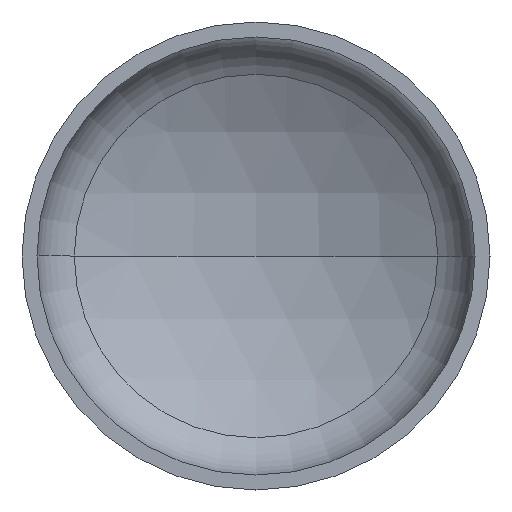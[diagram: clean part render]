
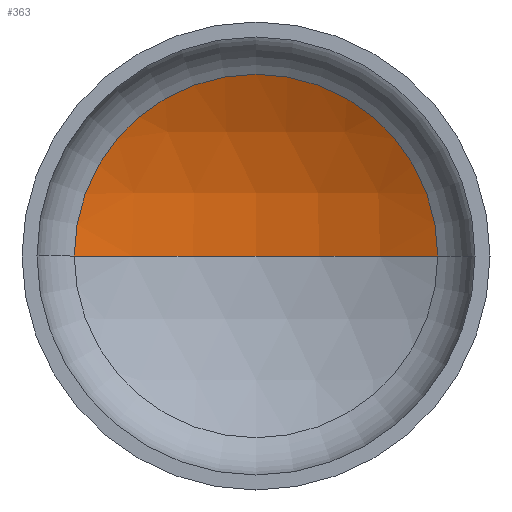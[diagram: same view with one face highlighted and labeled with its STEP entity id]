
A CAD part, front view. The second image highlights one B-rep face of the part: STEP entity #363.
In plain terms, the highlighted spherical face has radius 175 mm.
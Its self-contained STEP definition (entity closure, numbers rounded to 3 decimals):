
#5 = ORIENTED_EDGE ( 'NONE', *, *, #114, .F. ) ;
#8 = VERTEX_POINT ( 'NONE', #265 ) ;
#16 = DIRECTION ( 'NONE',  ( 1., 0., 0. ) ) ;
#25 = EDGE_LOOP ( 'NONE', ( #5, #59, #174 ) ) ;
#31 = CIRCLE ( 'NONE', #42, 175. ) ;
#42 = AXIS2_PLACEMENT_3D ( 'NONE', #135, #105, #16 ) ;
#49 = AXIS2_PLACEMENT_3D ( 'NONE', #217, #213, #214 ) ;
#51 = AXIS2_PLACEMENT_3D ( 'NONE', #302, #299, #225 ) ;
#59 = ORIENTED_EDGE ( 'NONE', *, *, #107, .T. ) ;
#104 = EDGE_CURVE ( 'NONE', #8, #147, #190, .T. ) ;
#105 = DIRECTION ( 'NONE',  ( 0., 0., 1. ) ) ;
#107 = EDGE_CURVE ( 'NONE', #108, #8, #376, .T. ) ;
#108 = VERTEX_POINT ( 'NONE', #305 ) ;
#114 = EDGE_CURVE ( 'NONE', #108, #147, #31, .T. ) ;
#135 = CARTESIAN_POINT ( 'NONE',  ( 0., -98.215, 0. ) ) ;
#147 = VERTEX_POINT ( 'NONE', #209 ) ;
#174 = ORIENTED_EDGE ( 'NONE', *, *, #104, .T. ) ;
#190 = CIRCLE ( 'NONE', #51, 85.08 ) ;
#209 = CARTESIAN_POINT ( 'NONE',  ( -85.08, 54.711, 0. ) ) ;
#213 = DIRECTION ( 'NONE',  ( 0., 0., -1. ) ) ;
#214 = DIRECTION ( 'NONE',  ( -1., 0., 0. ) ) ;
#217 = CARTESIAN_POINT ( 'NONE',  ( 0., -98.215, 0. ) ) ;
#225 = DIRECTION ( 'NONE',  ( 1., 0., 0. ) ) ;
#248 = DIRECTION ( 'NONE',  ( 0., 0., -1. ) ) ;
#265 = CARTESIAN_POINT ( 'NONE',  ( 85.08, 54.711, 0. ) ) ;
#266 = SPHERICAL_SURFACE ( 'NONE', #314, 175. ) ;
#272 = CARTESIAN_POINT ( 'NONE',  ( 0., -98.215, 0. ) ) ;
#299 = DIRECTION ( 'NONE',  ( 0., -1., 0. ) ) ;
#302 = CARTESIAN_POINT ( 'NONE',  ( 0., 54.711, 0. ) ) ;
#305 = CARTESIAN_POINT ( 'NONE',  ( 0., 76.785, 0. ) ) ;
#314 = AXIS2_PLACEMENT_3D ( 'NONE', #272, #248, #408 ) ;
#363 = ADVANCED_FACE ( 'NONE', ( #388 ), #266, .F. ) ;
#376 = CIRCLE ( 'NONE', #49, 175. ) ;
#388 = FACE_OUTER_BOUND ( 'NONE', #25, .T. ) ;
#408 = DIRECTION ( 'NONE',  ( -1., 0., 0. ) ) ;
